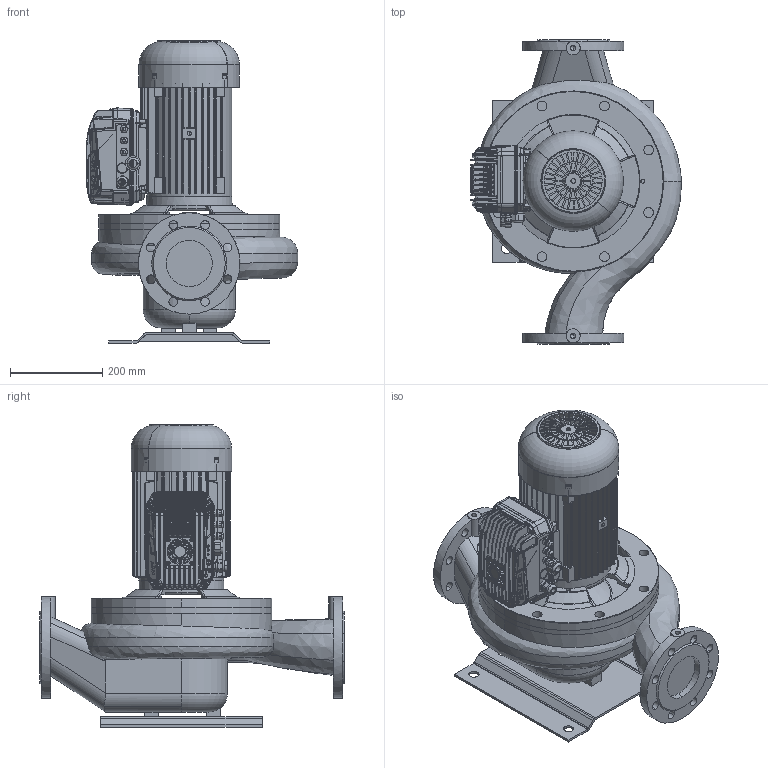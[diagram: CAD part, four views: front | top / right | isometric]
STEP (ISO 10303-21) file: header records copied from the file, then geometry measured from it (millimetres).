
FILE_DESCRIPTION(('STEP AP214'),'1');
FILE_NAME('export.stp','2022-09-07T07:20:14',(' '),(' '),'Spatial InterOp 3D',' ',' ');
FILE_SCHEMA(('AUTOMOTIVE_DESIGN { 1 0 10303 214 1 1 1 1 }'));
Length unit declared in the file: millimetre
Products named in the file (39): W_L100S4MDKP112; V_PPL100S; V_TLL100SAL1202; 440017; 440016; V_MKP112_2_F31; 480018; 480017; 440018; 440021; 480022; 480020; M25_Blind_Plug; M25_tiivisteholkk; P100496; P100495; P100342; MIDA_180deg; BASE_MIDA_NASTEC_89; 3005020100_AF0_157; PRT0001; PRT0002; PRT0003; PRT0005; PRT0006; PRT0007; V4-25--_-_U7687_PZ_AF0_5; V4-25--_-_U7687_PZ_AF1_5; V4-25--_-_U7687_PZ_AF2_5; V4-25--_-_U7687_PZ_AF3_5; V5-30--_-_U7687_PZ_AF0_5; V5-30--_-_U7687_PZ_AF1_5; V5-30--_-_U7687_PZ_AF2_5; V5-30--_-_U7687_PZ_5; 2001300200_32; TASTIERA_MIDA_2_44; ETICHETTA_MIDA_9; TAPPO_PRESSACAVO_M20_5; Mida205
Assembly tree (39 placements, depth 4):
  W_L100S4MDKP112
    V_PPL100S
    V_TLL100SAL1202
    V_MKP112_2_F31
      440017
        440016
      480018
        480017
      440018
      440021
      480022
      480020
      M25_Blind_Plug
      M25_tiivisteholkk
    P100496
      P100495  x2
      P100342
    Mida205
      MIDA_180deg
        BASE_MIDA_NASTEC_89
        3005020100_AF0_157
        PRT0001
        PRT0002
        PRT0003
        PRT0005
        PRT0006
        PRT0007
        V4-25--_-_U7687_PZ_AF0_5
        V4-25--_-_U7687_PZ_AF1_5
        V4-25--_-_U7687_PZ_AF2_5
        V4-25--_-_U7687_PZ_AF3_5
        V5-30--_-_U7687_PZ_AF0_5
        V5-30--_-_U7687_PZ_AF1_5
        V5-30--_-_U7687_PZ_AF2_5
        V5-30--_-_U7687_PZ_5
        2001300200_32
        TASTIERA_MIDA_2_44
        ETICHETTA_MIDA_9
        TAPPO_PRESSACAVO_M20_5
Bounding box: 458 x 660 x 655.9 mm (x, y, z)
Volume: 26079642.7 mm3; surface area: 2988873.2 mm2
Topology: 32 solids, 33 shells, 5373 faces, 14157 edges, 8859 vertices
Faces by surface type: cylinder 1955, plane 1741, bspline 1151, cone 397, torus 129
Entity records: 291410 total; most frequent: CARTESIAN_POINT 135685, ORIENTED_EDGE 28124, DIRECTION 19928, EDGE_CURVE 14066, VERTEX_POINT 8852, AXIS2_PLACEMENT_3D 7245, EDGE_LOOP 5861, LINE 5438
